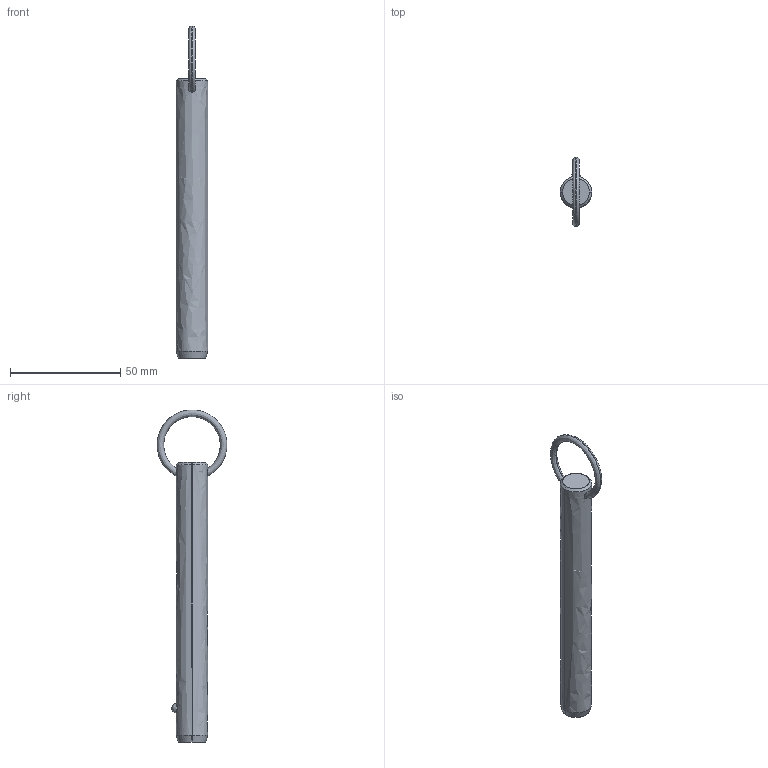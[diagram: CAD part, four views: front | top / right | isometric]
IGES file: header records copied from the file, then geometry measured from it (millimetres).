
Start section: SolidWorks IGES file using analytic representation for surfaces
Global section: file name: C:\Users\liam_\OneDrive\Documents\WORK\Work for WixRoyd\Job Files\J-00019 - Matt Davis CAD Checking\04. CAD Drawings\automotion20190605\P1250.2_v2\P1250.2_v2_20190729_IGES\P1250.056-400.igs; native system: SolidWorks 2017; preprocessor: SolidWorks 2017; author: liam_; date: 190729.232209; units: millimetre
Bounding box: 14.2 x 31.69 x 150.7 mm (x, y, z)
Surface area: 6626.9 mm2 (no closed solid volume)
Topology: 0 solids, 0 shells, 12 faces, 285 edges, 283 vertices
Faces by surface type: revolution 8, bspline 4
